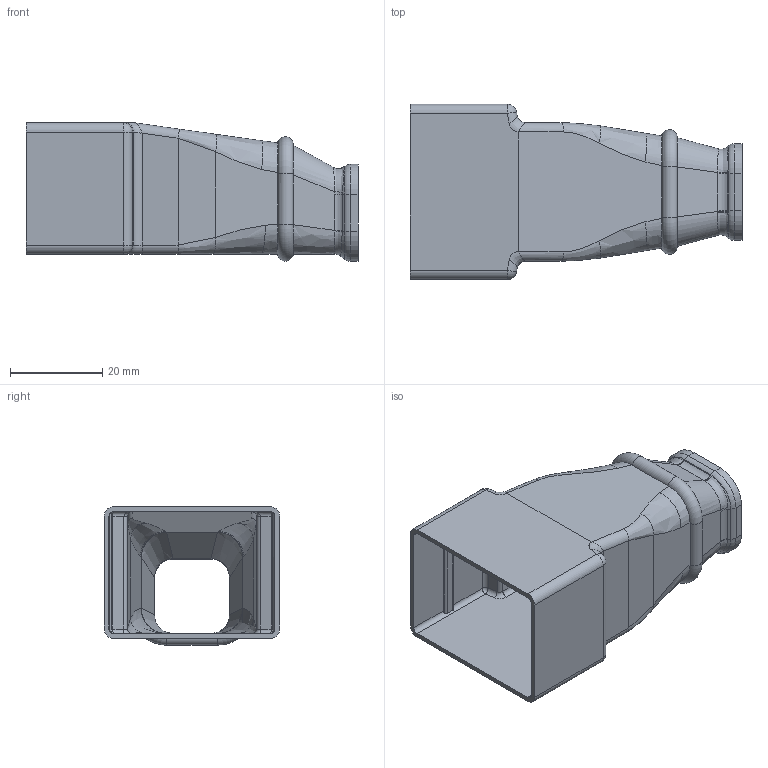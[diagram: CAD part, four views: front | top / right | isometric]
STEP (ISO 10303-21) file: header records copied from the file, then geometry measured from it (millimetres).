
FILE_DESCRIPTION(('Creo Elements/Direct Modeling STEP Export'),'2;1');
FILE_NAME('QTM-64C.stp','2014-02-25T13:06:53',(''),(''),'Creo Elements/Direct Modeling STEP processor for AP214 (Solid Model)','Creo Elements/Direct Modeling 18.1B 29-Sep-2012 (C) Parametric Technology GmbH','');
FILE_SCHEMA(('AUTOMOTIVE_DESIGN { 1 0 10303 214 1 1 1 1 }'));
Length unit declared in the file: millimetre
Products named in the file (3): QTM64-C_X2_304B308A304B3-139240.PRT; QTM64-C_X2_304B308A304B3-139570.ASM; QTM-64C
Assembly tree (2 placements, depth 3):
  QTM-64C
    QTM64-C_X2_304B308A304B3-139570.ASM
      QTM64-C_X2_304B308A304B3-139240.PRT
Bounding box: 72 x 38 x 30 mm (x, y, z)
Volume: 7981.1 mm3; surface area: 15642.9 mm2
Topology: 1 solids, 1 shells, 233 faces, 569 edges, 332 vertices
Faces by surface type: cylinder 72, bspline 66, plane 57, torus 20, cone 10, sphere 8
Entity records: 13399 total; most frequent: CARTESIAN_POINT 8423, ORIENTED_EDGE 1122, DIRECTION 857, EDGE_CURVE 561, VERTEX_POINT 332, AXIS2_PLACEMENT_3D 318, EDGE_LOOP 237, FACE_OUTER_BOUND 233
